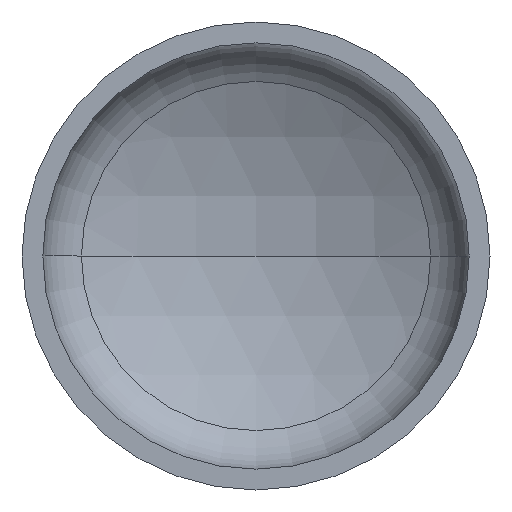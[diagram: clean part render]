
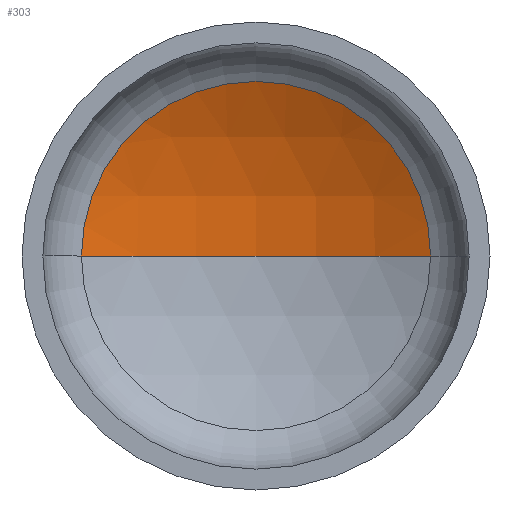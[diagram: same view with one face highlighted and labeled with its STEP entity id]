
A CAD part, front view. The second image highlights one B-rep face of the part: STEP entity #303.
In plain terms, the highlighted spherical face has radius 880 mm.
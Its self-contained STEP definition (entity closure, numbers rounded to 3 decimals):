
#5 = DIRECTION ( 'NONE',  ( -1., 0., 0. ) ) ;
#11 = AXIS2_PLACEMENT_3D ( 'NONE', #92, #95, #97 ) ;
#13 = DIRECTION ( 'NONE',  ( 1., 0., 0. ) ) ;
#18 = DIRECTION ( 'NONE',  ( 0., 0., 1. ) ) ;
#19 = AXIS2_PLACEMENT_3D ( 'NONE', #23, #18, #13 ) ;
#20 = AXIS2_PLACEMENT_3D ( 'NONE', #254, #411, #5 ) ;
#21 = AXIS2_PLACEMENT_3D ( 'NONE', #202, #172, #173 ) ;
#23 = CARTESIAN_POINT ( 'NONE',  ( 0., -478.123, 0. ) ) ;
#25 = ORIENTED_EDGE ( 'NONE', *, *, #58, .T. ) ;
#58 = EDGE_CURVE ( 'NONE', #166, #190, #73, .T. ) ;
#59 = EDGE_CURVE ( 'NONE', #292, #166, #382, .T. ) ;
#62 = EDGE_CURVE ( 'NONE', #292, #190, #255, .T. ) ;
#73 = CIRCLE ( 'NONE', #21, 410.254 ) ;
#92 = CARTESIAN_POINT ( 'NONE',  ( 0., -478.123, 0. ) ) ;
#95 = DIRECTION ( 'NONE',  ( 0., 0., -1. ) ) ;
#97 = DIRECTION ( 'NONE',  ( -1., 0., 0. ) ) ;
#127 = SPHERICAL_SURFACE ( 'NONE', #11, 880. ) ;
#148 = CARTESIAN_POINT ( 'NONE',  ( 0., 401.877, 0. ) ) ;
#166 = VERTEX_POINT ( 'NONE', #242 ) ;
#172 = DIRECTION ( 'NONE',  ( 0., -1., 0. ) ) ;
#173 = DIRECTION ( 'NONE',  ( 1., 0., 0. ) ) ;
#190 = VERTEX_POINT ( 'NONE', #241 ) ;
#202 = CARTESIAN_POINT ( 'NONE',  ( 0., 300.396, 0. ) ) ;
#204 = ORIENTED_EDGE ( 'NONE', *, *, #62, .F. ) ;
#210 = ORIENTED_EDGE ( 'NONE', *, *, #59, .T. ) ;
#241 = CARTESIAN_POINT ( 'NONE',  ( -410.254, 300.396, 0. ) ) ;
#242 = CARTESIAN_POINT ( 'NONE',  ( 410.254, 300.396, 0. ) ) ;
#254 = CARTESIAN_POINT ( 'NONE',  ( 0., -478.123, 0. ) ) ;
#255 = CIRCLE ( 'NONE', #19, 880. ) ;
#292 = VERTEX_POINT ( 'NONE', #148 ) ;
#303 = ADVANCED_FACE ( 'NONE', ( #354 ), #127, .F. ) ;
#351 = EDGE_LOOP ( 'NONE', ( #204, #210, #25 ) ) ;
#354 = FACE_OUTER_BOUND ( 'NONE', #351, .T. ) ;
#382 = CIRCLE ( 'NONE', #20, 880. ) ;
#411 = DIRECTION ( 'NONE',  ( 0., 0., -1. ) ) ;
